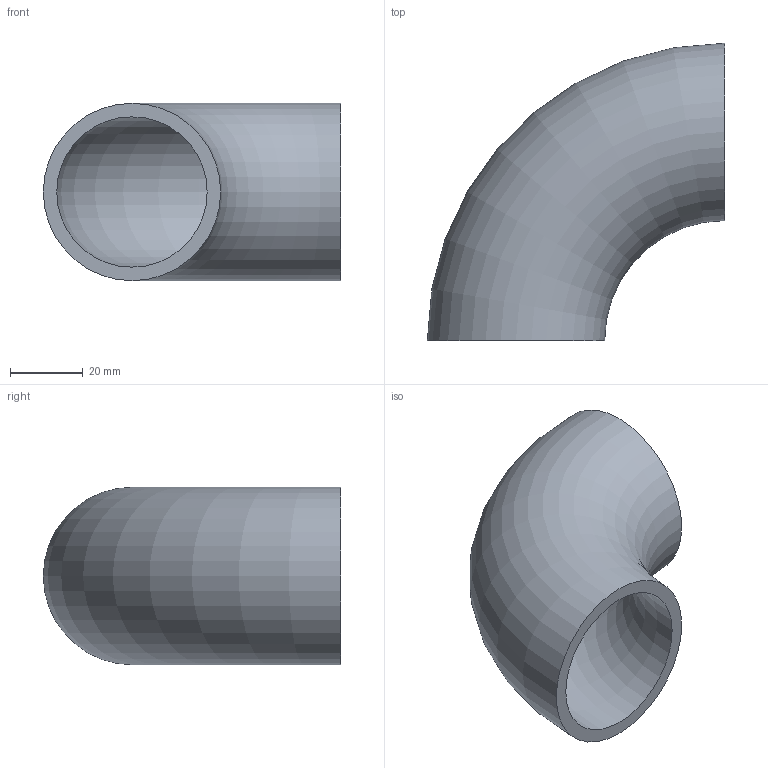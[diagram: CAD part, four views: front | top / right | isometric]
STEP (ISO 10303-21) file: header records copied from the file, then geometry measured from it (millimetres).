
FILE_DESCRIPTION(/* description */ (''),/* implementation_level */ '2;1');
FILE_NAME(/* name */ 'C:\Users\D\Documents\Inventor\HP\JIS\配管\エルボ ロング 90°\Sch40\Elbow-long-90-40A-Sch40.stp',/* time_stamp */ '2022-06-09T18:38:28+09:00',/* author */ ('D'),/* organization */ (''),/* preprocessor_version */ 'ST-DEVELOPER v18',/* originating_system */ 'Autodesk Inventor 2020',/* authorisation */ '');
FILE_SCHEMA (('AUTOMOTIVE_DESIGN { 1 0 10303 214 3 1 1 }'));
Length unit declared in the file: millimetre
Products named in the file (1): Elbow-long-90-15A-SGP
Bounding box: 81.5 x 81.5 x 48.6 mm (x, y, z)
Volume: 46893.6 mm3; surface area: 26391.7 mm2
Topology: 1 solids, 1 shells, 4 faces, 10 edges, 8 vertices
Faces by surface type: torus 2, plane 2
Entity records: 181 total; most frequent: DIRECTION 30, CARTESIAN_POINT 23, ORIENTED_EDGE 20, AXIS2_PLACEMENT_3D 15, CIRCLE 10, EDGE_CURVE 10, VERTEX_POINT 8, EDGE_LOOP 6
